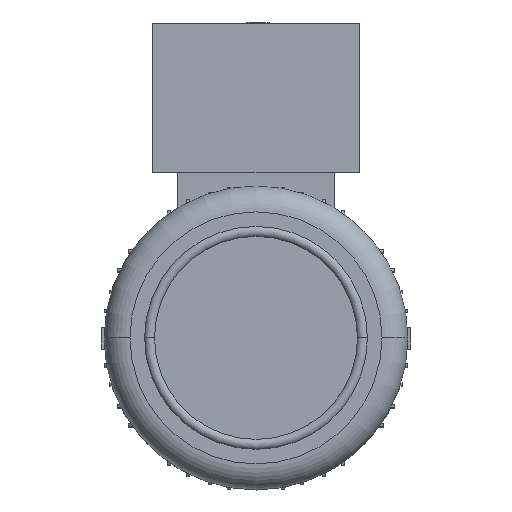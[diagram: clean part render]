
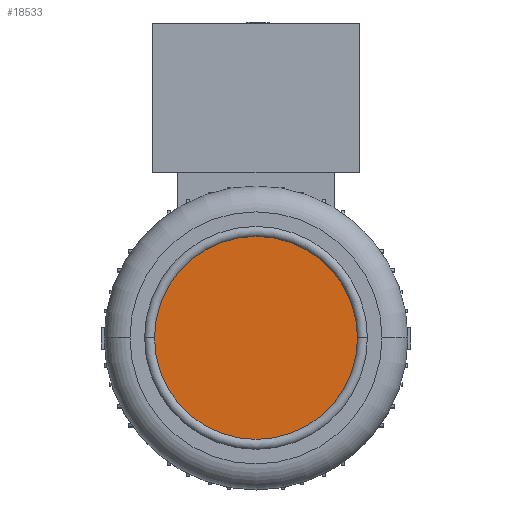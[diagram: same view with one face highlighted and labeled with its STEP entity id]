
A CAD part, top view. The second image highlights one B-rep face of the part: STEP entity #18533.
In plain terms, the highlighted planar face has unit normal (0, 0, 1).
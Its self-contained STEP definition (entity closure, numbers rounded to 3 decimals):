
#1395 = CARTESIAN_POINT ( 'NONE',  ( 0., 0., 178. ) ) ;
#1780 = CARTESIAN_POINT ( 'NONE',  ( 0., 64.838, 178. ) ) ;
#2252 = CARTESIAN_POINT ( 'NONE',  ( 64.838, 0., 178. ) ) ;
#2666 = AXIS2_PLACEMENT_3D ( 'NONE', #1780, #3917, #19170 ) ;
#3436 = CARTESIAN_POINT ( 'NONE',  ( -64.838, 0., 178. ) ) ;
#3917 = DIRECTION ( 'NONE',  ( 0., 0., 1. ) ) ;
#5636 = EDGE_LOOP ( 'NONE', ( #21855, #26287 ) ) ;
#5849 = PLANE ( 'NONE',  #2666 ) ;
#8060 = DIRECTION ( 'NONE',  ( -1., 0., 0. ) ) ;
#8682 = VERTEX_POINT ( 'NONE', #3436 ) ;
#9158 = CARTESIAN_POINT ( 'NONE',  ( 0., 0., 178. ) ) ;
#10355 = AXIS2_PLACEMENT_3D ( 'NONE', #1395, #19173, #8060 ) ;
#12074 = EDGE_CURVE ( 'NONE', #19588, #8682, #16566, .T. ) ;
#13668 = EDGE_CURVE ( 'NONE', #8682, #19588, #15054, .T. ) ;
#15054 = CIRCLE ( 'NONE', #10355, 64.838 ) ;
#16566 = CIRCLE ( 'NONE', #20770, 64.838 ) ;
#17837 = DIRECTION ( 'NONE',  ( 0., 0., -1. ) ) ;
#18533 = ADVANCED_FACE ( 'NONE', ( #26806 ), #5849, .T. ) ;
#19170 = DIRECTION ( 'NONE',  ( 1., 0., 0. ) ) ;
#19173 = DIRECTION ( 'NONE',  ( 0., 0., -1. ) ) ;
#19588 = VERTEX_POINT ( 'NONE', #2252 ) ;
#20770 = AXIS2_PLACEMENT_3D ( 'NONE', #9158, #17837, #22449 ) ;
#21855 = ORIENTED_EDGE ( 'NONE', *, *, #13668, .F. ) ;
#22449 = DIRECTION ( 'NONE',  ( -1., 0., 0. ) ) ;
#26287 = ORIENTED_EDGE ( 'NONE', *, *, #12074, .F. ) ;
#26806 = FACE_OUTER_BOUND ( 'NONE', #5636, .T. ) ;
